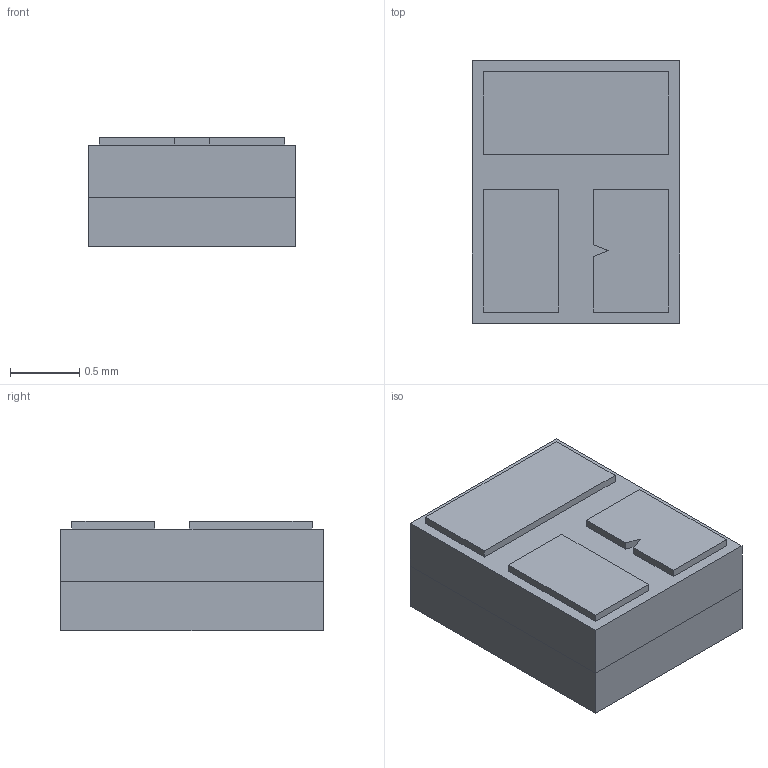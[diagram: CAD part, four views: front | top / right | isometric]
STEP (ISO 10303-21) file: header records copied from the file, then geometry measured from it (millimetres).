
FILE_DESCRIPTION (( 'STEP AP214' ), '1' );
FILE_NAME ('ASL1-SA1.STEP', '2025-04-03T07:24:56', ( '' ), ( '' ), 'SwSTEP 2.0', 'SolidWorks 2022', '' );
FILE_SCHEMA (( 'AUTOMOTIVE_DESIGN' ));
Length unit declared in the file: millimetre
Products named in the file (1): ASL1-SA1
Bounding box: 1.5 x 1.9 x 0.79 mm (x, y, z)
Volume: 2.1 mm3; surface area: 27.8 mm2
Topology: 12 solids, 12 shells, 83 faces, 177 edges, 118 vertices
Faces by surface type: plane 67, cylinder 16
Entity records: 3289 total; most frequent: CARTESIAN_POINT 379, DIRECTION 377, ORIENTED_EDGE 354, EDGE_CURVE 177, LINE 145, VECTOR 145, VERTEX_POINT 118, AXIS2_PLACEMENT_3D 116
